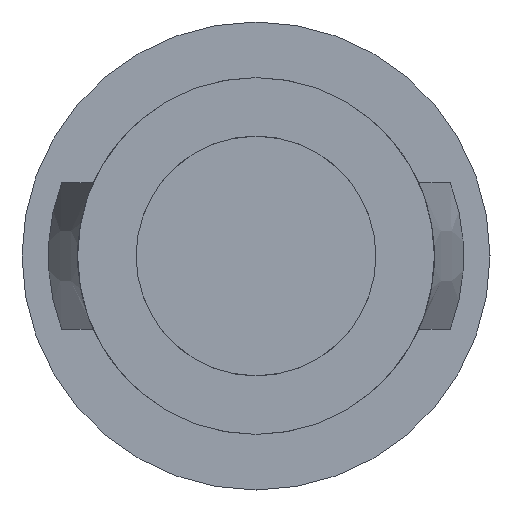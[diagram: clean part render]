
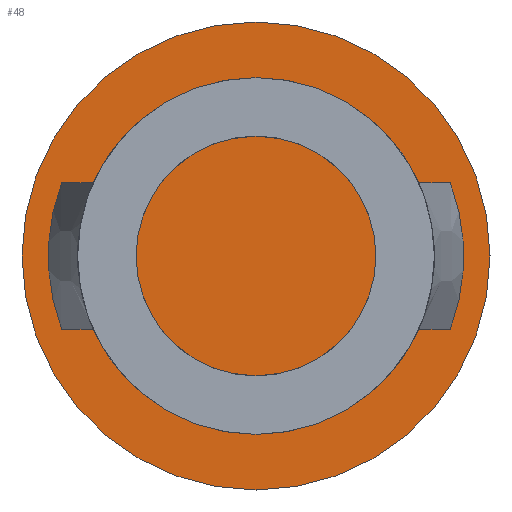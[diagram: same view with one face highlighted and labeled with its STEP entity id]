
A CAD part, front view. The second image highlights one B-rep face of the part: STEP entity #48.
In plain terms, the highlighted planar face has unit normal (0, -1, 0).
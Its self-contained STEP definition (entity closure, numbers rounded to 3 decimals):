
#1 = VERTEX_POINT ( 'NONE', #691 ) ;
#11 = ORIENTED_EDGE ( 'NONE', *, *, #483, .T. ) ;
#22 = EDGE_CURVE ( 'NONE', #1, #672, #741, .T. ) ;
#30 = EDGE_LOOP ( 'NONE', ( #85, #51, #11, #649, #605, #598 ) ) ;
#48 = ADVANCED_FACE ( 'NONE', ( #936, #937, #938 ), #939, .T. ) ;
#49 = EDGE_CURVE ( 'NONE', #558, #424, #944, .T. ) ;
#50 = VERTEX_POINT ( 'NONE', #950 ) ;
#51 = ORIENTED_EDGE ( 'NONE', *, *, #79, .T. ) ;
#66 = ORIENTED_EDGE ( 'NONE', *, *, #462, .T. ) ;
#72 = EDGE_LOOP ( 'NONE', ( #66, #564, #666, #609, #100, #688 ) ) ;
#79 = EDGE_CURVE ( 'NONE', #672, #254, #182, .T. ) ;
#82 = VERTEX_POINT ( 'NONE', #252 ) ;
#84 = VERTEX_POINT ( 'NONE', #261 ) ;
#85 = ORIENTED_EDGE ( 'NONE', *, *, #22, .T. ) ;
#100 = ORIENTED_EDGE ( 'NONE', *, *, #673, .F. ) ;
#137 = EDGE_LOOP ( 'NONE', ( #561, #984 ) ) ;
#143 = DIRECTION ( 'NONE',  ( 0., 0., 1. ) ) ;
#144 = LINE ( 'NONE', #145, #146 ) ;
#145 = CARTESIAN_POINT ( 'NONE',  ( -4., 6.4, -2. ) ) ;
#146 = VECTOR ( 'NONE', #147, 1000. ) ;
#147 = DIRECTION ( 'NONE',  ( 1., 0., 0. ) ) ;
#176 = VERTEX_POINT ( 'NONE', #951 ) ;
#182 = CIRCLE ( 'NONE', #183, 3.05 ) ;
#183 = AXIS2_PLACEMENT_3D ( 'NONE', #184, #185, #186 ) ;
#184 = CARTESIAN_POINT ( 'NONE',  ( 0., 6.4, 0. ) ) ;
#185 = DIRECTION ( 'NONE',  ( 0., 1., 0. ) ) ;
#186 = DIRECTION ( 'NONE',  ( 0., 0., 1. ) ) ;
#252 = CARTESIAN_POINT ( 'NONE',  ( 0.45, 6.4, -2. ) ) ;
#254 = VERTEX_POINT ( 'NONE', #976 ) ;
#256 = EDGE_CURVE ( 'NONE', #84, #658, #977, .T. ) ;
#261 = CARTESIAN_POINT ( 'NONE',  ( -2.303, 6.4, 2. ) ) ;
#268 = CARTESIAN_POINT ( 'NONE',  ( 0., 6.4, 4. ) ) ;
#282 = CARTESIAN_POINT ( 'NONE',  ( 0.45, 6.4, 2. ) ) ;
#326 = CARTESIAN_POINT ( 'NONE',  ( 0., 6.4, -3.05 ) ) ;
#332 = CIRCLE ( 'NONE', #333, 2.05 ) ;
#333 = AXIS2_PLACEMENT_3D ( 'NONE', #334, #335, #336 ) ;
#334 = CARTESIAN_POINT ( 'NONE',  ( 0., 6.4, 0. ) ) ;
#335 = DIRECTION ( 'NONE',  ( 0., 1., 0. ) ) ;
#336 = DIRECTION ( 'NONE',  ( 0., 0., -1. ) ) ;
#364 = CIRCLE ( 'NONE', #365, 2.05 ) ;
#365 = AXIS2_PLACEMENT_3D ( 'NONE', #366, #370, #371 ) ;
#366 = CARTESIAN_POINT ( 'NONE',  ( 0., 6.4, 0. ) ) ;
#370 = DIRECTION ( 'NONE',  ( 0., 1., 0. ) ) ;
#371 = DIRECTION ( 'NONE',  ( 0., 0., -1. ) ) ;
#416 = CIRCLE ( 'NONE', #417, 4. ) ;
#417 = AXIS2_PLACEMENT_3D ( 'NONE', #418, #419, #420 ) ;
#418 = CARTESIAN_POINT ( 'NONE',  ( 0., 6.4, 0. ) ) ;
#419 = DIRECTION ( 'NONE',  ( 0., 1., 0. ) ) ;
#420 = DIRECTION ( 'NONE',  ( 0., 0., 1. ) ) ;
#424 = VERTEX_POINT ( 'NONE', #1094 ) ;
#445 = VERTEX_POINT ( 'NONE', #1107 ) ;
#462 = EDGE_CURVE ( 'NONE', #84, #176, #1110, .T. ) ;
#482 = EDGE_CURVE ( 'NONE', #176, #50, #1120, .T. ) ;
#483 = EDGE_CURVE ( 'NONE', #254, #627, #144, .T. ) ;
#558 = VERTEX_POINT ( 'NONE', #268 ) ;
#560 = VERTEX_POINT ( 'NONE', #282 ) ;
#561 = ORIENTED_EDGE ( 'NONE', *, *, #49, .F. ) ;
#564 = ORIENTED_EDGE ( 'NONE', *, *, #482, .T. ) ;
#568 = EDGE_CURVE ( 'NONE', #82, #445, #364, .T. ) ;
#575 = EDGE_CURVE ( 'NONE', #82, #1, #692, .T. ) ;
#598 = ORIENTED_EDGE ( 'NONE', *, *, #575, .T. ) ;
#605 = ORIENTED_EDGE ( 'NONE', *, *, #568, .F. ) ;
#609 = ORIENTED_EDGE ( 'NONE', *, *, #864, .F. ) ;
#625 = EDGE_CURVE ( 'NONE', #560, #50, #920, .T. ) ;
#627 = VERTEX_POINT ( 'NONE', #926 ) ;
#631 = VERTEX_POINT ( 'NONE', #954 ) ;
#647 = EDGE_CURVE ( 'NONE', #445, #627, #1064, .T. ) ;
#649 = ORIENTED_EDGE ( 'NONE', *, *, #647, .F. ) ;
#658 = VERTEX_POINT ( 'NONE', #1108 ) ;
#666 = ORIENTED_EDGE ( 'NONE', *, *, #625, .F. ) ;
#672 = VERTEX_POINT ( 'NONE', #326 ) ;
#673 = EDGE_CURVE ( 'NONE', #658, #631, #332, .T. ) ;
#686 = EDGE_CURVE ( 'NONE', #424, #558, #416, .T. ) ;
#688 = ORIENTED_EDGE ( 'NONE', *, *, #256, .F. ) ;
#691 = CARTESIAN_POINT ( 'NONE',  ( 2.303, 6.4, -2. ) ) ;
#692 = LINE ( 'NONE', #693, #694 ) ;
#693 = CARTESIAN_POINT ( 'NONE',  ( -4., 6.4, -2. ) ) ;
#694 = VECTOR ( 'NONE', #695, 1000. ) ;
#695 = DIRECTION ( 'NONE',  ( 1., 0., 0. ) ) ;
#741 = CIRCLE ( 'NONE', #744, 3.05 ) ;
#744 = AXIS2_PLACEMENT_3D ( 'NONE', #745, #746, #747 ) ;
#745 = CARTESIAN_POINT ( 'NONE',  ( 0., 6.4, 0. ) ) ;
#746 = DIRECTION ( 'NONE',  ( 0., 1., 0. ) ) ;
#747 = DIRECTION ( 'NONE',  ( 0., 0., 1. ) ) ;
#795 = CIRCLE ( 'NONE', #796, 2.05 ) ;
#796 = AXIS2_PLACEMENT_3D ( 'NONE', #797, #798, #799 ) ;
#797 = CARTESIAN_POINT ( 'NONE',  ( 0., 6.4, 0. ) ) ;
#798 = DIRECTION ( 'NONE',  ( 0., 1., 0. ) ) ;
#799 = DIRECTION ( 'NONE',  ( 0., 0., -1. ) ) ;
#864 = EDGE_CURVE ( 'NONE', #631, #560, #795, .T. ) ;
#920 = LINE ( 'NONE', #921, #922 ) ;
#921 = CARTESIAN_POINT ( 'NONE',  ( -4., 6.4, 2. ) ) ;
#922 = VECTOR ( 'NONE', #923, 1000. ) ;
#923 = DIRECTION ( 'NONE',  ( 1., 0., 0. ) ) ;
#926 = CARTESIAN_POINT ( 'NONE',  ( -0.45, 6.4, -2. ) ) ;
#936 = FACE_BOUND ( 'NONE', #30, .T. ) ;
#937 = FACE_BOUND ( 'NONE', #72, .T. ) ;
#938 = FACE_OUTER_BOUND ( 'NONE', #137, .T. ) ;
#939 = PLANE ( 'NONE',  #940 ) ;
#940 = AXIS2_PLACEMENT_3D ( 'NONE', #941, #942, #943 ) ;
#941 = CARTESIAN_POINT ( 'NONE',  ( -4., 6.4, 0. ) ) ;
#942 = DIRECTION ( 'NONE',  ( 0., -1., 0. ) ) ;
#943 = DIRECTION ( 'NONE',  ( 0., 0., -1. ) ) ;
#944 = CIRCLE ( 'NONE', #945, 4. ) ;
#945 = AXIS2_PLACEMENT_3D ( 'NONE', #946, #947, #948 ) ;
#946 = CARTESIAN_POINT ( 'NONE',  ( 0., 6.4, 0. ) ) ;
#947 = DIRECTION ( 'NONE',  ( 0., 1., 0. ) ) ;
#948 = DIRECTION ( 'NONE',  ( 0., 0., 1. ) ) ;
#950 = CARTESIAN_POINT ( 'NONE',  ( 2.303, 6.4, 2. ) ) ;
#951 = CARTESIAN_POINT ( 'NONE',  ( 0., 6.4, 3.05 ) ) ;
#954 = CARTESIAN_POINT ( 'NONE',  ( 0., 6.4, 2.05 ) ) ;
#976 = CARTESIAN_POINT ( 'NONE',  ( -2.303, 6.4, -2. ) ) ;
#977 = LINE ( 'NONE', #978, #979 ) ;
#978 = CARTESIAN_POINT ( 'NONE',  ( -4., 6.4, 2. ) ) ;
#979 = VECTOR ( 'NONE', #980, 1000. ) ;
#980 = DIRECTION ( 'NONE',  ( 1., 0., 0. ) ) ;
#984 = ORIENTED_EDGE ( 'NONE', *, *, #686, .F. ) ;
#1064 = CIRCLE ( 'NONE', #1065, 2.05 ) ;
#1065 = AXIS2_PLACEMENT_3D ( 'NONE', #1066, #1067, #1068 ) ;
#1066 = CARTESIAN_POINT ( 'NONE',  ( 0., 6.4, 0. ) ) ;
#1067 = DIRECTION ( 'NONE',  ( 0., 1., 0. ) ) ;
#1068 = DIRECTION ( 'NONE',  ( 0., 0., -1. ) ) ;
#1094 = CARTESIAN_POINT ( 'NONE',  ( 0., 6.4, -4. ) ) ;
#1107 = CARTESIAN_POINT ( 'NONE',  ( 0., 6.4, -2.05 ) ) ;
#1108 = CARTESIAN_POINT ( 'NONE',  ( -0.45, 6.4, 2. ) ) ;
#1110 = CIRCLE ( 'NONE', #1111, 3.05 ) ;
#1111 = AXIS2_PLACEMENT_3D ( 'NONE', #1112, #1113, #1114 ) ;
#1112 = CARTESIAN_POINT ( 'NONE',  ( 0., 6.4, 0. ) ) ;
#1113 = DIRECTION ( 'NONE',  ( 0., 1., 0. ) ) ;
#1114 = DIRECTION ( 'NONE',  ( 0., 0., 1. ) ) ;
#1120 = CIRCLE ( 'NONE', #1121, 3.05 ) ;
#1121 = AXIS2_PLACEMENT_3D ( 'NONE', #1122, #1123, #143 ) ;
#1122 = CARTESIAN_POINT ( 'NONE',  ( 0., 6.4, 0. ) ) ;
#1123 = DIRECTION ( 'NONE',  ( 0., 1., 0. ) ) ;
